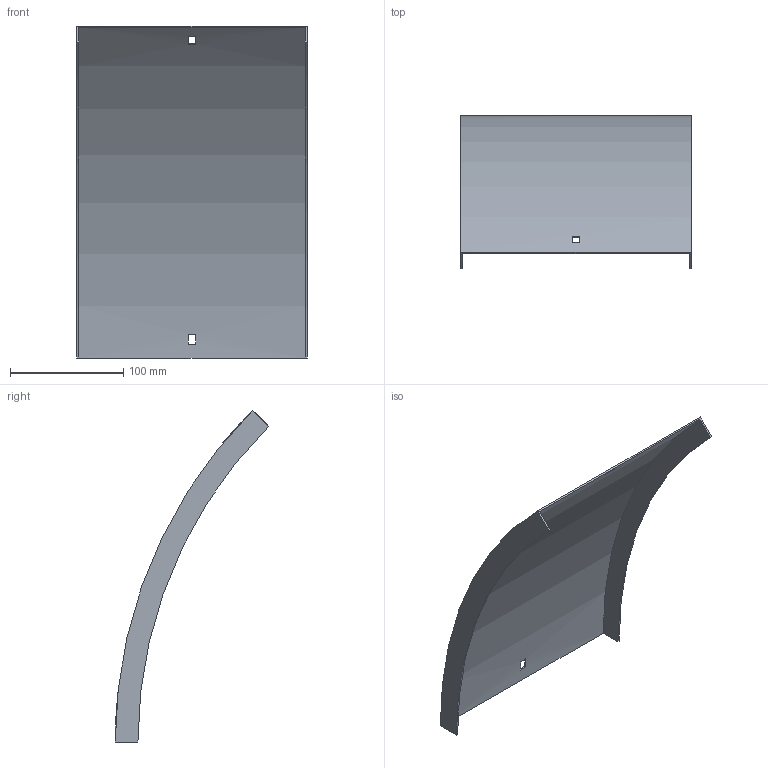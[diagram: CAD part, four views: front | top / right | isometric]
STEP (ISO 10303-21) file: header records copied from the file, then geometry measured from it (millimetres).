
FILE_DESCRIPTION (( 'STEP AP214' ), '1' );
FILE_NAME ('B2_34N3J200.step', '2025-02-21T10:36:56', ( '' ), ( '' ), 'SwSTEP 2.0', 'SolidWorks 2023', '' );
FILE_SCHEMA (( 'AUTOMOTIVE_DESIGN' ));
Length unit declared in the file: millimetre
Products named in the file (1): B2_34N3J200
Bounding box: 203 x 135.4 x 292.74 mm (x, y, z)
Volume: 116232.1 mm3; surface area: 156719.4 mm2
Topology: 1 solids, 1 shells, 18 faces, 48 edges, 32 vertices
Faces by surface type: plane 14, cylinder 4
Entity records: 599 total; most frequent: DIRECTION 102, CARTESIAN_POINT 99, ORIENTED_EDGE 96, EDGE_CURVE 48, AXIS2_PLACEMENT_3D 35, VERTEX_POINT 32, VECTOR 32, LINE 32
